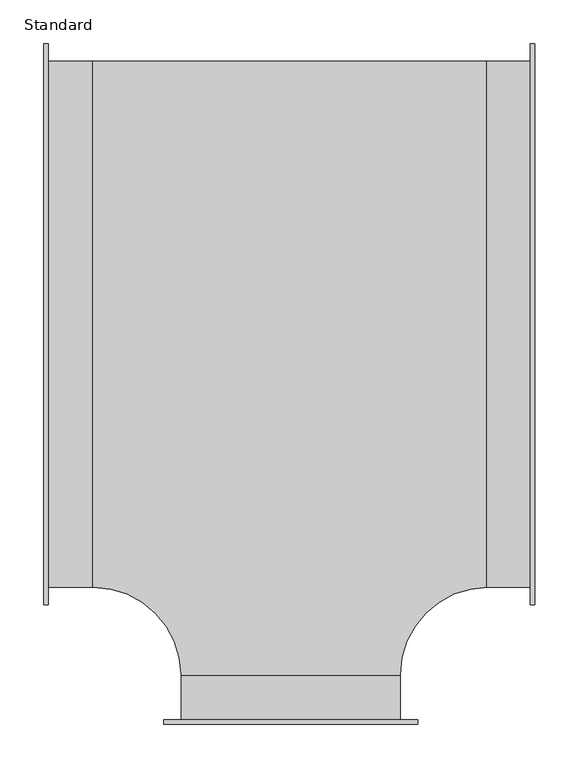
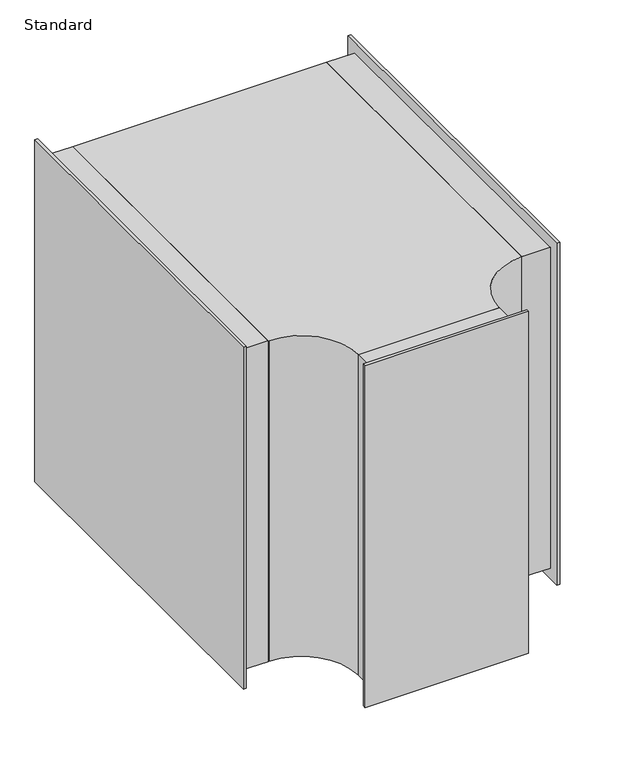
"""IFC4 building model written with IfcOpenShell, lengths in millimetres: duct fitting geometry, T-Stück rechteck gerade TG : Standard."""

import ifcopenshell
import ifcopenshell.guid

model = None  # the IFC model being written
_history = None  # IfcOwnerHistory: only IFC2X3 demands one
_inside = {}  # id of a spatial element -> (the spatial element, [elements in it])
_under = {}  # id of a project, library or spatial element -> (it, [spatial elements below it])
_declared = {}  # id of a project -> (the project, [libraries it declares])
_typed = {}  # id of a type object -> (the type object, [elements of that type])
_made_of = {}  # id of a material, layer set ... -> (it, [elements and type objects made of it])


def new_model(schema):
    """Start an empty IFC model of exactly this schema.

    Asked for "IFC4X3", IfcOpenShell would pick the latest addendum, in which some entities
    have other attributes; the version numbers below select the first issue.
    IFC2X3 requires an IfcOwnerHistory on every rooted entity: one is made here for all.
    """
    global model, _history
    if schema == "IFC4X3":
        model = ifcopenshell.file(schema_version=(4, 3, 0, 0))
    else:
        model = ifcopenshell.file(schema=schema)
    _inside.clear()
    _under.clear()
    _declared.clear()
    _typed.clear()
    _made_of.clear()
    _history = None
    if model.schema == "IFC2X3":
        org = make("IfcOrganization", Name="unknown")
        user = make(
            "IfcPersonAndOrganization",
            ThePerson=make("IfcPerson", FamilyName="unknown"),
            TheOrganization=org,
        )
        app = make(
            "IfcApplication",
            ApplicationDeveloper=org,
            Version="unknown",
            ApplicationFullName="unknown",
            ApplicationIdentifier="unknown",
        )
        _history = make(
            "IfcOwnerHistory",
            OwningUser=user,
            OwningApplication=app,
            ChangeAction="ADDED",
            CreationDate=0,
        )
    return model


def make(cls, **values):
    """One entity of the class cls with the attributes given. An attribute that is None is left unset."""
    return model.create_entity(
        cls, **{name: value for name, value in values.items() if value is not None}
    )


def rooted(cls, **values):
    """An entity with a GlobalId (a new one), such as an element, a storey or a relation."""
    return make(cls, GlobalId=ifcopenshell.guid.new(), OwnerHistory=_history, **values)


def si_unit(unit_type, name, prefix=None):
    """IfcSIUnit, for example si_unit("LENGTHUNIT", "METRE", prefix="MILLI")."""
    return make("IfcSIUnit", UnitType=unit_type, Prefix=prefix, Name=name)


def assignment(units):
    """IfcUnitAssignment: the units of a project."""
    return None if units is None else make("IfcUnitAssignment", Units=units)


def point(xyz):
    """IfcCartesianPoint."""
    return None if xyz is None else make("IfcCartesianPoint", Coordinates=xyz)


def direction(xyz):
    """IfcDirection."""
    return None if xyz is None else make("IfcDirection", DirectionRatios=xyz)


def frame(location, z_axis=None, x_axis=None):
    """IfcAxis2Placement3D, a coordinate frame: its origin and axes. An axis left out is left unset."""
    return make(
        "IfcAxis2Placement3D",
        Location=point(location),
        Axis=direction(z_axis),
        RefDirection=direction(x_axis),
    )


def frame_2d(location, x_axis=None):
    """IfcAxis2Placement2D, a coordinate frame in the plane: its origin and x axis."""
    return make(
        "IfcAxis2Placement2D", Location=point(location), RefDirection=direction(x_axis)
    )


def origin():
    """The frame at (0, 0, 0) with its axes left unset."""
    return frame((0.0, 0.0, 0.0))


def place(relative_to, where):
    """IfcLocalPlacement: puts the frame where relative to a parent placement (None: the world)."""
    return make(
        "IfcLocalPlacement", PlacementRelTo=relative_to, RelativePlacement=where
    )


def context(
    kind, dimensions, precision=None, world=None, true_north=None, identifier=None
):
    """IfcGeometricRepresentationContext, for example the 3D "Model" context."""
    return make(
        "IfcGeometricRepresentationContext",
        ContextIdentifier=identifier,
        ContextType=kind,
        CoordinateSpaceDimension=dimensions,
        Precision=precision,
        WorldCoordinateSystem=world,
        TrueNorth=true_north,
    )


def project(units=None, contexts=None):
    """IfcProject with its units and contexts."""
    return rooted(
        "IfcProject",
        Name="project",
        RepresentationContexts=contexts,
        UnitsInContext=assignment(units),
    )


def spatial(cls, under=None, at=None, **own):
    """A site, building, storey or space (cls), placed at a placement, below another one or the project."""
    s = rooted(cls, ObjectPlacement=at, **own)
    if under is not None:
        _under.setdefault(under.id(), (under, []))[1].append(s)
    return s


def polyline(points):
    """IfcPolyline through the points."""
    return make("IfcPolyline", Points=[point(p) for p in points])


def circle_curve(where, radius):
    """IfcCircle in the frame where."""
    return make("IfcCircle", Position=where, Radius=radius)


def trimmed(basis, trim1, trim2, sense, master):
    """IfcTrimmedCurve: the piece of a basis curve between two trims."""
    return make(
        "IfcTrimmedCurve",
        BasisCurve=basis,
        Trim1=trim1,
        Trim2=trim2,
        SenseAgreement=sense,
        MasterRepresentation=master,
    )


def segment(curve, same_sense, transition):
    """IfcCompositeCurveSegment."""
    return make(
        "IfcCompositeCurveSegment",
        Transition=transition,
        SameSense=same_sense,
        ParentCurve=curve,
    )


def composite_curve(segments, self_intersect=None):
    """IfcCompositeCurve: segments joined end to end."""
    return make("IfcCompositeCurve", Segments=segments, SelfIntersect=self_intersect)


def outline(outer, holes=None, kind="AREA"):
    """IfcArbitraryClosedProfileDef: a profile drawn as a closed curve; with holes, ...WithVoids."""
    if holes is None:
        return make("IfcArbitraryClosedProfileDef", ProfileType=kind, OuterCurve=outer)
    return make(
        "IfcArbitraryProfileDefWithVoids",
        ProfileType=kind,
        OuterCurve=outer,
        InnerCurves=holes,
    )


def extrude(swept, where, along, depth):
    """IfcExtrudedAreaSolid: the profile swept, set in the frame where, extruded along a direction by depth."""
    return make(
        "IfcExtrudedAreaSolid",
        SweptArea=swept,
        Position=where,
        ExtrudedDirection=direction(along),
        Depth=depth,
    )


def shape(context_of_items, identifier, shape_type, items):
    """IfcShapeRepresentation: the items that make up one representation, for example the "Body"."""
    return make(
        "IfcShapeRepresentation",
        ContextOfItems=context_of_items,
        RepresentationIdentifier=identifier,
        RepresentationType=shape_type,
        Items=items,
    )


def source(mapping_origin, context_of_items, identifier, shape_type, items):
    """IfcRepresentationMap: a shape defined once, which mapped items show again and again."""
    return make(
        "IfcRepresentationMap",
        MappingOrigin=mapping_origin,
        MappedRepresentation=shape(context_of_items, identifier, shape_type, items),
    )


def transform(
    local_origin,
    x_axis=None,
    y_axis=None,
    z_axis=None,
    scale=None,
    scale2=None,
    scale3=None,
    uniform=True,
):
    """IfcCartesianTransformationOperator3D, or its non-uniform kind. x_axis, y_axis, z_axis: its Axis1, 2, 3."""
    if uniform:
        return make(
            "IfcCartesianTransformationOperator3D",
            Axis1=direction(x_axis),
            Axis2=direction(y_axis),
            LocalOrigin=point(local_origin),
            Scale=scale,
            Axis3=direction(z_axis),
        )
    return make(
        "IfcCartesianTransformationOperator3DnonUniform",
        Axis1=direction(x_axis),
        Axis2=direction(y_axis),
        LocalOrigin=point(local_origin),
        Scale=scale,
        Axis3=direction(z_axis),
        Scale2=scale2,
        Scale3=scale3,
    )


def mapped(mapping_source, mapping_target):
    """IfcMappedItem: shows the shape of a source again, moved by a transform."""
    return make(
        "IfcMappedItem", MappingSource=mapping_source, MappingTarget=mapping_target
    )


def made_of(thing, what):
    """Note that an element or type object is made of a material, layer set ...; save() writes the relation."""
    if what is not None:
        _made_of.setdefault(what.id(), (what, []))[1].append(thing)
    return thing


def element(
    cls,
    number,
    at=None,
    inside=None,
    cuts=None,
    type_object=None,
    material=None,
    context=None,
    identifier="Body",
    shape_type=None,
    held_by="IfcProductDefinitionShape",
    body=None,
    shapes=None,
    **own,
):
    """One element of the class cls, such as IfcWall. Its Tag is "e" and its number.

    at: its placement. inside: the storey or other place that contains it. cuts: it is an
    opening in that element (IfcRelVoidsElement). A single representation is given by context,
    identifier, shape_type and body (its items); several are given by shapes. held_by: the class
    of the entity that holds the representations. save() writes the other relations.
    """
    e = rooted(cls, Tag="e%d" % number, ObjectPlacement=at, **own)
    if body is not None:
        shapes = [shape(context, identifier, shape_type, body)]
    if shapes is not None:
        e.Representation = make(held_by, Representations=shapes)
    if inside is not None:
        _inside.setdefault(inside.id(), (inside, []))[1].append(e)
    if cuts is not None:
        rooted(
            "IfcRelVoidsElement", RelatingBuildingElement=cuts, RelatedOpeningElement=e
        )
    if type_object is not None:
        _typed.setdefault(type_object.id(), (type_object, []))[1].append(e)
    return made_of(e, material)


def aggregate(whole, parts):
    """IfcRelAggregates: a whole, such as a stair, and the parts it consists of."""
    return rooted("IfcRelAggregates", RelatingObject=whole, RelatedObjects=parts)


def save(model, path):
    """Write the relations noted so far, then the file.

    IfcRelAggregates (storeys below a building ...), IfcRelContainedInSpatialStructure (elements
    in a storey), IfcRelDefinesByType, IfcRelAssociatesMaterial and IfcRelDeclares: one each for
    every whole, place, type object, material and project.
    """
    for whole, parts in _under.values():
        aggregate(whole, parts)
    for where, things in _inside.values():
        rooted(
            "IfcRelContainedInSpatialStructure",
            RelatedElements=things,
            RelatingStructure=where,
        )
    for kind, things in _typed.values():
        rooted("IfcRelDefinesByType", RelatedObjects=things, RelatingType=kind)
    for what, things in _made_of.values():
        rooted("IfcRelAssociatesMaterial", RelatedObjects=things, RelatingMaterial=what)
    for by, libraries in _declared.values():
        rooted("IfcRelDeclares", RelatingContext=by, RelatedDefinitions=libraries)
    model.write(path)


def standard_8eb34b0e(model_context):
    return source(origin(), model_context, "Body", "SweptSolid", [
        extrude(outline(polyline([(-125.0, -401.0), (125.0, -401.0), (125.0, -451.0), (-125.0, -451.0), (-125.0, -401.0)])), frame((0.0, 0.0, -300.0), z_axis=(0.0, 0.0, 1.0), x_axis=(1.0, 0.0, 0.0)), (0.0, 0.0, 1.0), 600.0),
        extrude(outline(polyline([(273.4, 300.0), (273.4, -300.0), (223.4, -300.0), (223.4, 300.0), (273.4, 300.0)])), frame((0.0, 0.0, -300.0), z_axis=(0.0, 0.0, 1.0), x_axis=(1.0, 0.0, 0.0)), (0.0, 0.0, 1.0), 600.0),
        extrude(outline(polyline([(-276.6, -300.0), (-276.6, 300.0), (-226.6, 300.0), (-226.6, -300.0), (-276.6, -300.0)])), frame((0.0, 0.0, -300.0), z_axis=(0.0, 0.0, 1.0), x_axis=(1.0, 0.0, 0.0)), (0.0, 0.0, 1.0), 600.0),
        extrude(outline(composite_curve([segment(trimmed(circle_curve(frame_2d((225.0, -400.0)), 100.0), [point((225.0, -300.0))], [point((125.0, -400.0))], True, "CARTESIAN"), True, "CONTINUOUS"), segment(polyline([(125.0, -400.0), (125.0, -401.0), (-125.0, -401.0), (-125.0, -400.0)]), True, "CONTINUOUS"), segment(trimmed(circle_curve(frame_2d((-225.0, -400.0)), 100.0), [point((-125.0, -400.0))], [point((-225.0, -300.0))], True, "CARTESIAN"), True, "CONTINUOUS"), segment(polyline([(-225.0, -300.0), (-226.6, -300.0), (-226.6, 300.0), (223.4, 300.0), (223.4, -300.0), (225.0, -300.0)]), True, "CONTINUOUS")], self_intersect=False)), frame((0.0, 0.0, -300.0), z_axis=(0.0, 0.0, 1.0), x_axis=(1.0, 0.0, 0.0)), (0.0, 0.0, 1.0), 600.0),
        extrude(outline(polyline([(145.0, -456.0), (-145.0, -456.0), (-145.0, -451.0), (145.0, -451.0), (145.0, -456.0)])), frame((0.0, 0.0, -320.0), z_axis=(0.0, 0.0, 1.0), x_axis=(1.0, 0.0, 0.0)), (0.0, 0.0, 1.0), 640.0),
        extrude(outline(polyline([(278.4, 320.0), (278.4, -320.0), (273.4, -320.0), (273.4, 320.0), (278.4, 320.0)])), frame((0.0, 0.0, -320.0), z_axis=(0.0, 0.0, 1.0), x_axis=(1.0, 0.0, 0.0)), (0.0, 0.0, 1.0), 640.0),
        extrude(outline(polyline([(-276.6, 320.0), (-276.6, -320.0), (-281.6, -320.0), (-281.6, 320.0), (-276.6, 320.0)])), frame((0.0, 0.0, -320.0), z_axis=(0.0, 0.0, 1.0), x_axis=(1.0, 0.0, 0.0)), (0.0, 0.0, 1.0), 640.0),
    ])


if __name__ == "__main__":
    model = new_model("IFC4")
    model_context = context("Model", 3, world=origin())
    ifc_project = project(units=[si_unit("LENGTHUNIT", "METRE", prefix="MILLI")], contexts=[model_context])
    site = spatial("IfcSite", under=ifc_project)
    building = spatial("IfcBuilding", under=site)
    placement = place(None, origin())
    standard_shape = standard_8eb34b0e(model_context)
    element("IfcDuctFitting", 1, ObjectType="T-Stück rechteck gerade TG : Standard", at=placement, inside=building, context=model_context, shape_type="MappedRepresentation", body=[
        mapped(standard_shape, transform((0.0, 0.0, 0.0), x_axis=(1.0, 0.0, 0.0), y_axis=(0.0, 1.0, 0.0), z_axis=(0.0, 0.0, 1.0))),
    ])
    save(model, "model.ifc")
